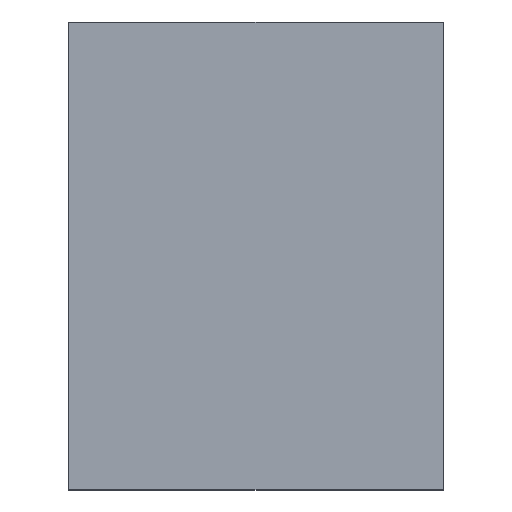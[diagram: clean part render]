
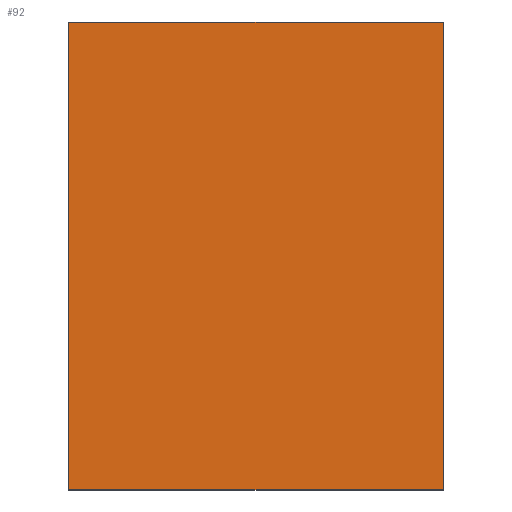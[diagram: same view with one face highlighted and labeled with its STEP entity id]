
A CAD part, top view. The second image highlights one B-rep face of the part: STEP entity #92.
In plain terms, the highlighted planar face has unit normal (0, 0, 1).
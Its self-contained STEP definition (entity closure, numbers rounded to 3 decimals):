
#8 = ORIENTED_EDGE ( 'NONE', *, *, #222, .T. ) ;
#10 = DIRECTION ( 'NONE',  ( -1., 0., 0. ) ) ;
#15 = VECTOR ( 'NONE', #109, 1000. ) ;
#18 = CARTESIAN_POINT ( 'NONE',  ( 50.8, 63.5, 0.01 ) ) ;
#21 = EDGE_CURVE ( 'NONE', #151, #153, #47, .T. ) ;
#37 = DIRECTION ( 'NONE',  ( 1., 0., 0. ) ) ;
#40 = DIRECTION ( 'NONE',  ( 1., 0., 0. ) ) ;
#46 = VERTEX_POINT ( 'NONE', #136 ) ;
#47 = LINE ( 'NONE', #195, #214 ) ;
#50 = PLANE ( 'NONE',  #126 ) ;
#52 = DIRECTION ( 'NONE',  ( 0., 0., 1. ) ) ;
#61 = EDGE_CURVE ( 'NONE', #46, #151, #103, .T. ) ;
#86 = CARTESIAN_POINT ( 'NONE',  ( 50.8, -63.5, 0.01 ) ) ;
#89 = LINE ( 'NONE', #122, #15 ) ;
#92 = ADVANCED_FACE ( 'NONE', ( #112 ), #50, .T. ) ;
#101 = EDGE_LOOP ( 'NONE', ( #120, #8, #173, #160 ) ) ;
#103 = LINE ( 'NONE', #86, #234 ) ;
#109 = DIRECTION ( 'NONE',  ( 0., -1., 0. ) ) ;
#112 = FACE_OUTER_BOUND ( 'NONE', #101, .T. ) ;
#120 = ORIENTED_EDGE ( 'NONE', *, *, #166, .T. ) ;
#122 = CARTESIAN_POINT ( 'NONE',  ( -50.8, 63.5, 0.01 ) ) ;
#126 = AXIS2_PLACEMENT_3D ( 'NONE', #142, #52, #37 ) ;
#136 = CARTESIAN_POINT ( 'NONE',  ( 50.8, -63.5, 0.01 ) ) ;
#141 = CARTESIAN_POINT ( 'NONE',  ( -50.8, -63.5, 0.01 ) ) ;
#142 = CARTESIAN_POINT ( 'NONE',  ( 0., 0., 0.01 ) ) ;
#149 = VECTOR ( 'NONE', #40, 1000. ) ;
#151 = VERTEX_POINT ( 'NONE', #18 ) ;
#153 = VERTEX_POINT ( 'NONE', #201 ) ;
#160 = ORIENTED_EDGE ( 'NONE', *, *, #21, .T. ) ;
#166 = EDGE_CURVE ( 'NONE', #153, #192, #89, .T. ) ;
#173 = ORIENTED_EDGE ( 'NONE', *, *, #61, .T. ) ;
#176 = DIRECTION ( 'NONE',  ( 0., 1., 0. ) ) ;
#192 = VERTEX_POINT ( 'NONE', #221 ) ;
#195 = CARTESIAN_POINT ( 'NONE',  ( 50.8, 63.5, 0.01 ) ) ;
#201 = CARTESIAN_POINT ( 'NONE',  ( -50.8, 63.5, 0.01 ) ) ;
#214 = VECTOR ( 'NONE', #10, 1000. ) ;
#221 = CARTESIAN_POINT ( 'NONE',  ( -50.8, -63.5, 0.01 ) ) ;
#222 = EDGE_CURVE ( 'NONE', #192, #46, #236, .T. ) ;
#234 = VECTOR ( 'NONE', #176, 1000. ) ;
#236 = LINE ( 'NONE', #141, #149 ) ;
